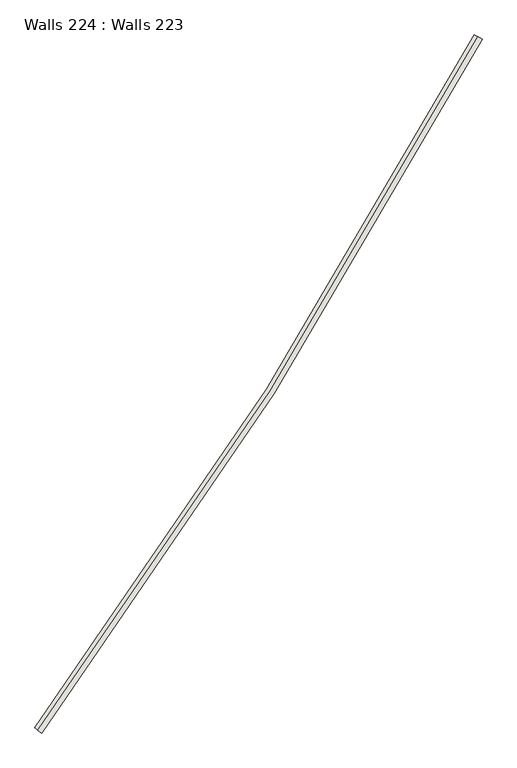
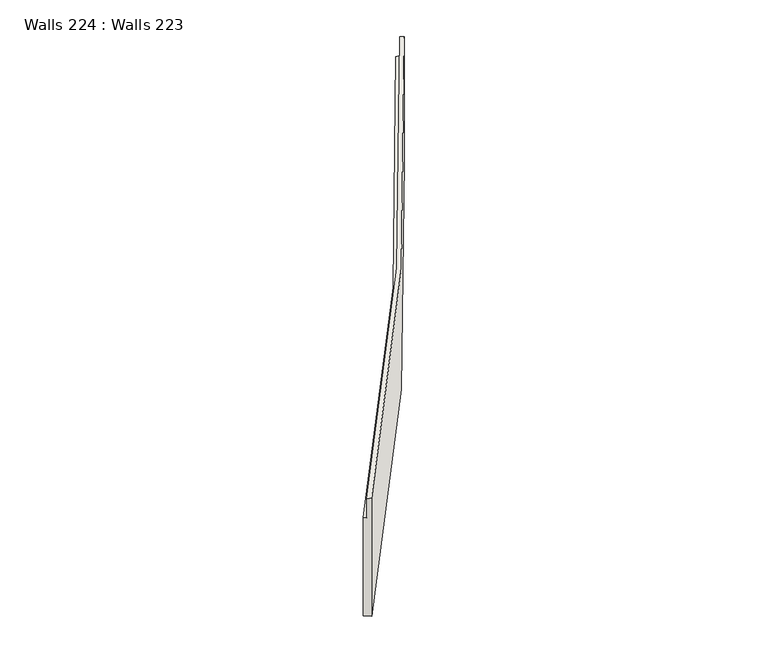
"""IFC4 building model written with IfcOpenShell, lengths in millimetres: wall geometry, Walls 224 : Walls 223."""

from ifc_helpers import new_model, si_unit, frame, origin, place, context, project, spatial, source, transform, mapped, element, save
from ifc_brep_helpers import plane_surface, spline_curve, spline_surface, advanced_brep


def walls_224_walls_223_0b556716(model_context):
    return source(origin(), model_context, "Body", "AdvancedBrep", [
        advanced_brep(
        [(413910.1972643, 342914.391184, 645840.0), (413602.3664144, 343080.9449827, 645840.0), (413602.3664144, 343080.9449827, 651260.0), (413734.2939215, 343009.5647833, 651260.0), (413734.2939215, 343009.5647833, 652260.0), (413910.1972643, 342914.391184, 652260.0), (396366.2300075, 315279.5002291, 645420.0), (396366.2300075, 315279.5002291, 651460.0), (396205.2577611, 315398.19284, 651460.0), (396205.2577611, 315398.19284, 650460.0), (396084.5285763, 315487.2122982, 650460.0), (396084.5285763, 315487.2122982, 645420.0)],
        [
            (0, 1),
            (1, 2),
            (2, 3),
            (3, 4),
            (4, 5),
            (5, 0),
            (6, 7),
            (7, 8),
            (8, 9),
            (9, 10),
            (10, 11),
            (11, 6),
            (11, 1, spline_curve(3, [(396084.5285763, 315487.2122982, 645420.0), (399319.995554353, 319875.213558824, 645490.000000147), (402402.473356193, 324376.018516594, 645559.999999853), (408246.482359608, 333581.379664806, 645700.000000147), (411008.013561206, 338285.935851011, 645769.999999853), (413602.3664144, 343080.9449827, 645840.0)], [4, 2, 4], [0.0, 53.69347587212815, 107.3869517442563])),
            (0, 6, spline_curve(3, [(413910.1972643, 342914.391184, 645840.0), (411311.974699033, 338112.229907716, 645769.999999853), (408546.324424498, 333400.656495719, 645700.000000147), (402693.598560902, 324181.564812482, 645559.999999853), (399606.522969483, 319674.046541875, 645490.000000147), (396366.2300075, 315279.5002291, 645420.0)], [4, 2, 4], [0.0, 53.69347587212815, 107.3869517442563])),
            (10, 2, spline_curve(3, [(396084.5285763, 315487.2122982, 650460.0), (399319.995555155, 319875.213557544, 650593.333332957), (402402.473355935, 324376.018517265, 650726.666667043), (408246.482359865, 333581.379664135, 650993.333332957), (411008.013561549, 338285.935851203, 651126.666667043), (413602.3664144, 343080.9449827, 651260.0)], [4, 2, 4], [0.0, 53.65837558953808, 107.31675117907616])),
            (9, 3, spline_curve(3, [(396205.2577611, 315398.19284, 650460.0), (399442.79301856, 319788.999122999, 650593.333334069), (402527.241300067, 324292.681214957, 650726.666665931), (408374.986102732, 333503.926878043, 650993.333334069), (411138.282620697, 338211.49044774, 651126.666665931), (413734.2939215, 343009.5647833, 651260.0)], [4, 2, 4], [0.0, 53.682235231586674, 107.36447046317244])),
            (8, 4, spline_curve(3, [(396205.2577611, 315398.19284, 651460.0), (399442.793017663, 319788.999122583, 651593.333333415), (402527.241301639, 324292.681214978, 651726.666666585), (408374.986101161, 333503.926878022, 651993.333333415), (411138.282621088, 338211.490447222, 652126.666666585), (413734.2939215, 343009.5647833, 652260.0)], [4, 2, 4], [0.0, 53.699377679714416, 107.39875535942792])),
            (7, 5, spline_curve(3, [(396366.2300075, 315279.5002291, 651460.0), (399606.522970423, 319674.046541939, 651593.333333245), (402693.598560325, 324181.564813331, 651726.666666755), (408546.324425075, 333400.656494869, 651993.333333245), (411311.974699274, 338112.229907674, 652126.666666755), (413910.1972643, 342914.391184, 652260.0)], [4, 2, 4], [0.0, 53.72223428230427, 107.44446856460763])),
        ],
        [
            plane_surface(frame((413748.9525334, 343001.63365, 649786.6666667), z_axis=(0.475867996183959, 0.8795167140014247, 0.0), x_axis=(-0.8795167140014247, 0.475867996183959, 0.0))),
            plane_surface(frame((396218.672115, 315388.3017891, 649113.3333333), z_axis=(-0.5934630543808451, -0.804861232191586, 0.0), x_axis=(-0.804861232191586, 0.5934630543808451, 0.0))),
            spline_surface(3, 3, [[(396366.2300075, 315279.5002291, 645420.0), (399606.522969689, 319674.046542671, 645490.0), (402693.598560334, 324181.564812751, 645560.0), (408546.324425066, 333400.656495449, 645700.0), (411311.974699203, 338112.229908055, 645770.0), (413910.1972643, 342914.391184, 645840.0)], [(396319.279768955, 315314.118907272, 645420.0), (399558.76840047, 319707.574378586, 645490.0), (402645.077693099, 324213.973763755, 645560.0), (408496.350747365, 333430.777023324, 645700.0), (411261.314509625, 338141.180898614, 645770.0), (413858.89212265, 342942.150150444, 645840.0)], [(396272.329530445, 315348.737585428, 645420.0), (399511.013831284, 319741.102214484, 645490.0), (402596.556825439, 324246.382714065, 645560.0), (408446.377070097, 333460.897551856, 645700.0), (411210.654319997, 338170.131889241, 645770.0), (413807.58698095, 342969.909116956, 645840.0)], [(396178.429053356, 315417.974941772, 645420.0), (399415.504692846, 319808.157886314, 645490.0), (402499.515090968, 324311.200616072, 645560.0), (408346.429714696, 333521.138607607, 645700.0), (411109.33394084, 338228.033870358, 645770.0), (413704.97669765, 343025.427049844, 645840.0)], [(396131.478814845, 315452.593620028, 645420.0), (399367.75012366, 319841.685722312, 645490.0), (402450.994223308, 324343.609566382, 645560.0), (408296.456037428, 333551.259136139, 645700.0), (411058.673751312, 338256.984860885, 645770.0), (413653.67155605, 343053.186016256, 645840.0)], [(396084.5285763, 315487.2122982, 645420.0), (399319.995554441, 319875.213558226, 645490.0), (402402.473356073, 324376.018517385, 645560.0), (408246.482359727, 333581.379664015, 645700.0), (411008.013561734, 338285.935851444, 645770.0), (413602.3664144, 343080.9449827, 645840.0)]], [4, 2, 4], [4, 2, 4], [0.0, 0.5741469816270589, 1.1482939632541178], [0.0, 53.69347587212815, 107.3869517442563]),
            spline_surface(3, 3, [[(396084.5285763, 315487.2122982, 645420.0), (399319.995554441, 319875.213558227, 645490.0), (402402.473356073, 324376.018517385, 645560.0), (408246.482359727, 333581.379664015, 645700.0), (411008.013561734, 338285.935851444, 645770.0), (413602.3664144, 343080.9449827, 645840.0)], [(396084.5285763, 315487.2122982, 646260.0), (399319.995554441, 319875.213558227, 646340.555555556), (402402.473356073, 324376.018517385, 646421.111111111), (408246.482359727, 333581.379664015, 646582.222222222), (411008.013561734, 338285.935851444, 646662.777777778), (413602.3664144, 343080.9449827, 646743.333333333)], [(396084.5285763, 315487.2122982, 647100.0), (399319.995554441, 319875.213558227, 647191.111111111), (402402.473356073, 324376.018517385, 647282.222222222), (408246.482359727, 333581.379664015, 647464.444444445), (411008.013561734, 338285.935851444, 647555.555555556), (413602.3664144, 343080.9449827, 647646.666666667)], [(396084.5285763, 315487.2122982, 648780.0), (399319.995554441, 319875.213558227, 648892.222222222), (402402.473356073, 324376.018517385, 649004.444444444), (408246.482359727, 333581.379664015, 649228.888888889), (411008.013561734, 338285.935851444, 649341.111111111), (413602.3664144, 343080.9449827, 649453.333333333)], [(396084.5285763, 315487.2122982, 649620.0), (399319.995554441, 319875.213558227, 649742.777777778), (402402.473356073, 324376.018517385, 649865.555555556), (408246.482359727, 333581.379664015, 650111.111111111), (411008.013561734, 338285.935851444, 650233.888888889), (413602.3664144, 343080.9449827, 650356.666666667)], [(396084.5285763, 315487.2122982, 650460.0), (399319.995554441, 319875.213558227, 650593.333333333), (402402.473356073, 324376.018517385, 650726.666666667), (408246.482359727, 333581.379664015, 650993.333333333), (411008.013561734, 338285.935851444, 651126.666666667), (413602.3664144, 343080.9449827, 651260.0)]], [4, 2, 4], [4, 2, 4], [0.0, 8.579396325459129, 17.158792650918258], [0.0, 53.65837558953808, 107.31675117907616]),
            spline_surface(3, 3, [[(396084.5285763, 315487.2122982, 650460.0), (399319.995554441, 319875.213558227, 650593.333333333), (402402.473356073, 324376.018517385, 650726.666666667), (408246.482359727, 333581.379664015, 650993.333333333), (411008.013561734, 338285.935851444, 651126.666666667), (413602.3664144, 343080.9449827, 651260.0)], [(396104.650107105, 315472.37572184, 650460.0), (399340.461798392, 319860.844485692, 650593.333333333), (402423.268013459, 324362.128966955, 650726.666666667), (408267.89965017, 333568.470866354, 650993.333333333), (411029.725071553, 338273.528284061, 651126.666666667), (413624.35433225, 343069.048282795, 651260.0)], [(396124.771637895, 315457.53914546, 650460.0), (399360.928042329, 319846.475413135, 650593.333333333), (402444.062671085, 324348.239416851, 650726.666666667), (408289.316940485, 333555.56206844, 650993.333333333), (411051.436581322, 338261.120716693, 651126.666666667), (413646.34225005, 343057.151582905, 651260.0)], [(396165.014699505, 315427.86599274, 650460.0), (399401.860530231, 319817.737268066, 650593.333333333), (402485.651985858, 324320.460315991, 650726.666666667), (408332.151521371, 333529.744473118, 650993.333333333), (411094.859600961, 338236.305581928, 651126.666666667), (413690.31808575, 343033.358183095, 651260.0)], [(396185.136230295, 315413.029416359, 650460.0), (399422.326774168, 319803.368195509, 650593.333333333), (402506.446643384, 324306.570765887, 650726.666666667), (408353.568811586, 333516.835675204, 650993.333333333), (411116.57111083, 338223.89801456, 651126.666666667), (413712.30600365, 343021.461483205, 651260.0)], [(396205.2577611, 315398.19284, 650460.0), (399442.793018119, 319788.999122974, 650593.333333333), (402527.241300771, 324292.681215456, 650726.666666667), (408374.986102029, 333503.926877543, 650993.333333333), (411138.282620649, 338211.490447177, 651126.666666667), (413734.2939215, 343009.5647833, 651260.0)]], [4, 2, 4], [4, 2, 4], [0.0, 0.24606299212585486, 0.4921259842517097], [0.0, 53.682235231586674, 107.36447046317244]),
            spline_surface(3, 3, [[(396205.2577611, 315398.19284, 650460.0), (399442.793018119, 319788.999122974, 650593.333333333), (402527.241300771, 324292.681215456, 650726.666666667), (408374.986102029, 333503.926877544, 650993.333333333), (411138.282620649, 338211.490447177, 651126.666666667), (413734.2939215, 343009.5647833, 651260.0)], [(396205.2577611, 315398.19284, 650626.666666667), (399442.793018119, 319788.999122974, 650760.0), (402527.241300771, 324292.681215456, 650893.333333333), (408374.986102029, 333503.926877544, 651160.0), (411138.282620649, 338211.490447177, 651293.333333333), (413734.2939215, 343009.5647833, 651426.666666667)], [(396205.2577611, 315398.19284, 650793.333333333), (399442.793018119, 319788.999122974, 650926.666666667), (402527.241300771, 324292.681215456, 651060.0), (408374.986102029, 333503.926877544, 651326.666666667), (411138.282620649, 338211.490447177, 651460.0), (413734.2939215, 343009.5647833, 651593.333333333)], [(396205.2577611, 315398.19284, 651126.666666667), (399442.793018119, 319788.999122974, 651260.0), (402527.241300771, 324292.681215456, 651393.333333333), (408374.986102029, 333503.926877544, 651660.0), (411138.282620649, 338211.490447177, 651793.333333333), (413734.2939215, 343009.5647833, 651926.666666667)], [(396205.2577611, 315398.19284, 651293.333333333), (399442.793018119, 319788.999122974, 651426.666666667), (402527.241300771, 324292.681215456, 651560.0), (408374.986102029, 333503.926877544, 651826.666666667), (411138.282620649, 338211.490447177, 651960.0), (413734.2939215, 343009.5647833, 652093.333333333)], [(396205.2577611, 315398.19284, 651460.0), (399442.793018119, 319788.999122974, 651593.333333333), (402527.241300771, 324292.681215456, 651726.666666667), (408374.986102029, 333503.926877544, 651993.333333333), (411138.282620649, 338211.490447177, 652126.666666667), (413734.2939215, 343009.5647833, 652260.0)]], [4, 2, 4], [4, 2, 4], [0.0, 1.6404199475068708, 3.2808398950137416], [0.0, 53.699377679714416, 107.39875535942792]),
            spline_surface(3, 3, [[(396205.2577611, 315398.19284, 651460.0), (399442.793018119, 319788.999122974, 651593.333333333), (402527.241300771, 324292.681215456, 651726.666666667), (408374.986102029, 333503.926877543, 651993.333333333), (411138.282620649, 338211.490447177, 652126.666666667), (413734.2939215, 343009.5647833, 652260.0)], [(396232.08646884, 315378.410738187, 651460.0), (399470.081343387, 319769.840359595, 651593.333333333), (402554.967510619, 324274.161814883, 651726.666666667), (408403.542489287, 333486.715147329, 651993.333333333), (411167.231300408, 338194.947024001, 652126.666666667), (413763.6111453, 342993.702516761, 652260.0)], [(396258.91517656, 315358.628636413, 651460.0), (399497.369668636, 319750.681596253, 651593.333333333), (402582.693720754, 324255.642414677, 651726.666666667), (408432.09887634, 333469.503416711, 651993.333333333), (411196.179980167, 338178.403600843, 652126.666666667), (413792.9283691, 342977.840250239, 652260.0)], [(396312.57259204, 315319.064432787, 651460.0), (399551.946319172, 319712.364069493, 651593.333333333), (402638.146140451, 324218.60361353, 651726.666666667), (408489.211650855, 333435.079956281, 651993.333333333), (411254.077339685, 338145.31675449, 652126.666666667), (413851.5628167, 342946.115717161, 652260.0)], [(396339.40129976, 315299.282330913, 651460.0), (399579.234644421, 319693.205306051, 651593.333333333), (402665.872350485, 324200.084213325, 651726.666666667), (408517.768037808, 333417.868225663, 651993.333333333), (411283.026019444, 338128.773331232, 652126.666666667), (413880.8800405, 342930.253450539, 652260.0)], [(396366.2300075, 315279.5002291, 651460.0), (399606.522969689, 319674.046542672, 651593.333333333), (402693.598560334, 324181.564812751, 651726.666666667), (408546.324425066, 333400.656495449, 651993.333333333), (411311.974699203, 338112.229908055, 652126.666666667), (413910.1972643, 342914.391184, 652260.0)]], [4, 2, 4], [4, 2, 4], [0.0, 0.3280839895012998, 0.6561679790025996], [0.0, 53.72223428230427, 107.44446856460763]),
            spline_surface(3, 3, [[(396366.2300075, 315279.5002291, 651460.0), (399606.522969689, 319674.046542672, 651593.333333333), (402693.598560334, 324181.564812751, 651726.666666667), (408546.324425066, 333400.656495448, 651993.333333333), (411311.974699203, 338112.229908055, 652126.666666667), (413910.1972643, 342914.391184, 652260.0)], [(396366.2300075, 315279.5002291, 650453.333333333), (399606.522969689, 319674.046542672, 650576.111111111), (402693.598560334, 324181.564812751, 650698.888888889), (408546.324425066, 333400.656495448, 650944.444444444), (411311.974699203, 338112.229908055, 651067.222222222), (413910.1972643, 342914.391184, 651190.0)], [(396366.2300075, 315279.5002291, 649446.666666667), (399606.522969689, 319674.046542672, 649558.888888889), (402693.598560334, 324181.564812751, 649671.111111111), (408546.324425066, 333400.656495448, 649895.555555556), (411311.974699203, 338112.229908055, 650007.777777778), (413910.1972643, 342914.391184, 650120.0)], [(396366.2300075, 315279.5002291, 647433.333333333), (399606.522969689, 319674.046542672, 647524.444444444), (402693.598560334, 324181.564812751, 647615.555555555), (408546.324425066, 333400.656495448, 647797.777777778), (411311.974699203, 338112.229908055, 647888.888888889), (413910.1972643, 342914.391184, 647980.0)], [(396366.2300075, 315279.5002291, 646426.666666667), (399606.522969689, 319674.046542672, 646507.222222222), (402693.598560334, 324181.564812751, 646587.777777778), (408546.324425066, 333400.656495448, 646748.888888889), (411311.974699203, 338112.229908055, 646829.444444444), (413910.1972643, 342914.391184, 646910.0)], [(396366.2300075, 315279.5002291, 645420.0), (399606.522969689, 319674.046542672, 645490.0), (402693.598560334, 324181.564812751, 645560.0), (408546.324425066, 333400.656495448, 645700.0), (411311.974699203, 338112.229908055, 645770.0), (413910.1972643, 342914.391184, 645840.0)]], [4, 2, 4], [4, 2, 4], [0.0, 10.219816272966, 20.439632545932], [0.0, 53.73838369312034, 107.47676738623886]),
        ],
        [
            (0, [[1, 2, 3, 4, 5, 6]]),
            (1, [[7, 8, 9, 10, 11, 12]]),
            (2, [[-12, 13, -1, 14]]),
            (3, [[-11, 15, -2, -13]]),
            (4, [[-10, 16, -3, -15]]),
            (5, [[-9, 17, -4, -16]]),
            (6, [[-8, 18, -5, -17]]),
            (7, [[-7, -14, -6, -18]]),
        ],
    ),
    ])


if __name__ == "__main__":
    model = new_model("IFC4")
    model_context = context("Model", 3, world=origin())
    ifc_project = project(units=[si_unit("LENGTHUNIT", "METRE", prefix="MILLI")], contexts=[model_context])
    site = spatial("IfcSite", under=ifc_project)
    building = spatial("IfcBuilding", under=site)
    placement = place(None, origin())
    walls_224_walls_223_shape = walls_224_walls_223_0b556716(model_context)
    element("IfcWall", 1, ObjectType="Walls 224 : Walls 223", at=placement, inside=building, context=model_context, shape_type="MappedRepresentation", body=[
        mapped(walls_224_walls_223_shape, transform((0.0, 0.0, 0.0), x_axis=(1.0, 0.0, 0.0), y_axis=(0.0, 1.0, 0.0), z_axis=(0.0, 0.0, 1.0))),
    ])
    save(model, "model.ifc")
